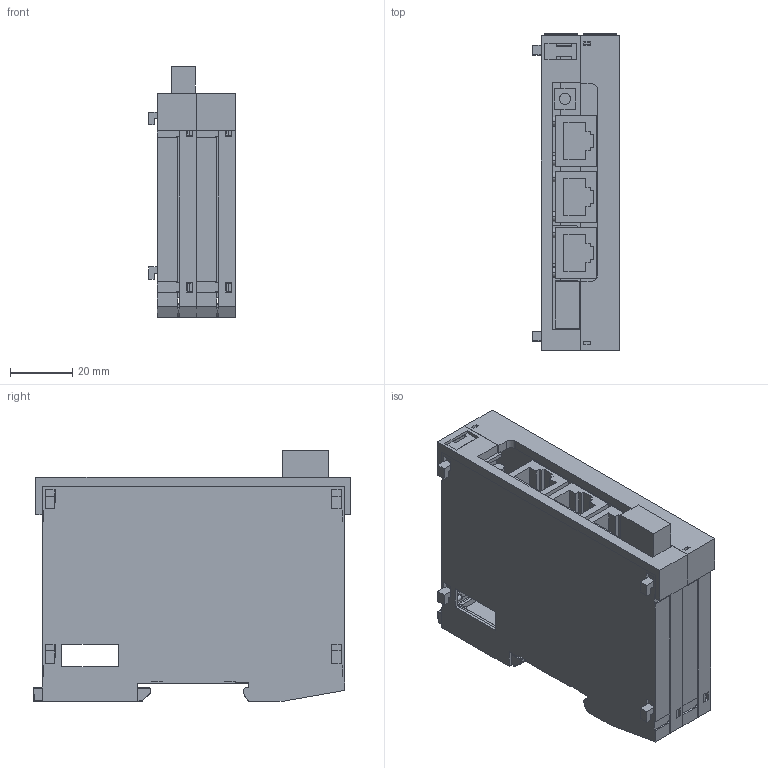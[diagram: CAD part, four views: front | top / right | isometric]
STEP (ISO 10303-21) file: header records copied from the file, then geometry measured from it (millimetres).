
FILE_DESCRIPTION (( 'STEP AP214' ), '1' );
FILE_NAME ('VA011 support.STEP', '2019-11-06T09:27:01', ( 'Windows-Benutzer' ), ( '' ), 'SwSTEP 2.0', 'SolidWorks 2018', '' );
FILE_SCHEMA (( 'AUTOMOTIVE_DESIGN' ));
Length unit declared in the file: millimetre
Products named in the file (11): S-Dias Schale links_f Suport; ZM1505-2730-10 Rasthaken S-Dias; S-Dias Doppelmodul Abdeckung Relais Support_VA011; S-Dias Zwischenstück Doppelmodul; Schieber_f Suport; Dummy_4110251205 4pol.Minicombicon-Grundgehäuse RM3,5 1937512; VA011 support; S-Dias Schale rechts_f Suport; Dummy_4110262104 4pol.Federkraftstecker f.2reih 1952283; Dummy_4080225208 RJ45 Ethernet Buchse90 SMD; Dummy_7297771206_TA3_1W2_V_T_R
Assembly tree (13 placements, depth 2):
  VA011 support
    S-Dias Schale links_f Suport
    S-Dias Schale rechts_f Suport
    Schieber_f Suport
    S-Dias Doppelmodul Abdeckung Relais Support_VA011
    S-Dias Zwischenstück Doppelmodul
    ZM1505-2730-10 Rasthaken S-Dias  x2
    Dummy_4080225208 RJ45 Ethernet Buchse90 SMD  x3
    Dummy_4110251205 4pol.Minicombicon-Grundgehäuse RM3,5 1937512
    Dummy_4110262104 4pol.Federkraftstecker f.2reih 1952283
    Dummy_7297771206_TA3_1W2_V_T_R
Bounding box: 27.8 x 101.64 x 80.39 mm (x, y, z)
Volume: 39071 mm3; surface area: 59045.3 mm2
Topology: 14 solids, 14 shells, 1494 faces, 4338 edges, 2872 vertices
Faces by surface type: plane 982, cylinder 282, bspline 144, cone 66, torus 20
Entity records: 43249 total; most frequent: CARTESIAN_POINT 9551, ORIENTED_EDGE 6632, DIRECTION 5389, EDGE_CURVE 3316, VECTOR 2555, LINE 2555, VERTEX_POINT 2191, AXIS2_PLACEMENT_3D 1417
